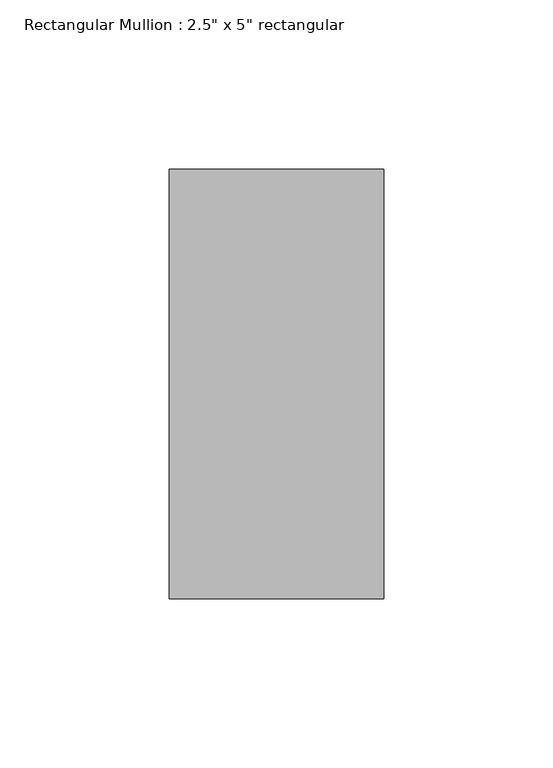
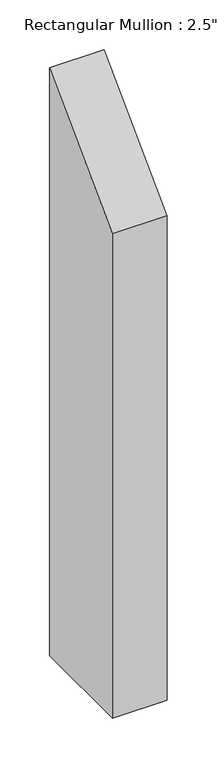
"""IFC4 building model written with IfcOpenShell, lengths in millimetres: member geometry."""

from ifc_helpers import new_model, si_unit, frame, origin, place, context, project, spatial, polyline, outline, extrude, source, transform, mapped, element, save


def member_f7040936(model_context):
    return source(origin(), model_context, "Body", "SweptSolid", [
        extrude(outline(polyline([(-63.5, -63.5), (63.5, 63.5), (63.5, -658.9), (-63.5, -658.9), (-63.5, -63.5)])), frame((-31.75, 0.0, 0.0), z_axis=(1.0, 0.0, 0.0), x_axis=(0.0, 1.0, 0.0)), (0.0, 0.0, 1.0), 63.5),
    ])


if __name__ == "__main__":
    model = new_model("IFC4")
    model_context = context("Model", 3, world=origin())
    ifc_project = project(units=[si_unit("LENGTHUNIT", "METRE", prefix="MILLI")], contexts=[model_context])
    site = spatial("IfcSite", under=ifc_project)
    building = spatial("IfcBuilding", under=site)
    placement = place(None, origin())
    member_shape = member_f7040936(model_context)
    element("IfcMember", 1, ObjectType="Rectangular Mullion : 2.5\" x 5\" rectangular", at=placement, inside=building, context=model_context, shape_type="MappedRepresentation", body=[
        mapped(member_shape, transform((0.0, 0.0, 0.0), x_axis=(1.0, 0.0, 0.0), y_axis=(0.0, 1.0, 0.0), z_axis=(0.0, 0.0, 1.0))),
    ])
    save(model, "model.ifc")
